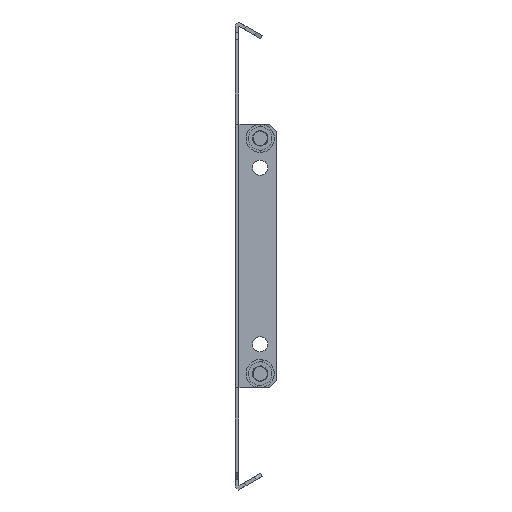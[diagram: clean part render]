
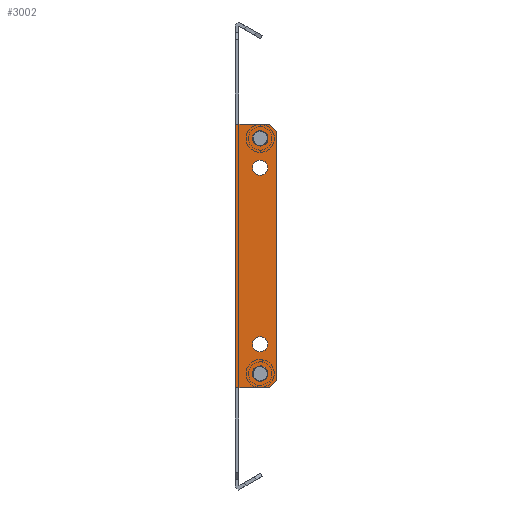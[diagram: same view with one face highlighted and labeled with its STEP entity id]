
A CAD part, front view. The second image highlights one B-rep face of the part: STEP entity #3002.
In plain terms, the highlighted planar face has unit normal (0, -1, 0).
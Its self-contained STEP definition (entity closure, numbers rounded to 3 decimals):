
#146 = CARTESIAN_POINT ( 'NONE',  ( 0.515, -352.638, -48.877 ) ) ;
#231 = EDGE_LOOP ( 'NONE', ( #1581, #9122 ) ) ;
#274 = ORIENTED_EDGE ( 'NONE', *, *, #9484, .F. ) ;
#279 = LINE ( 'NONE', #9231, #11025 ) ;
#505 = EDGE_CURVE ( 'NONE', #4087, #9678, #3709, .T. ) ;
#516 = VERTEX_POINT ( 'NONE', #10806 ) ;
#524 = VERTEX_POINT ( 'NONE', #11651 ) ;
#563 = DIRECTION ( 'NONE',  ( 0., 0., 1. ) ) ;
#637 = EDGE_LOOP ( 'NONE', ( #6946, #12314 ) ) ;
#687 = CARTESIAN_POINT ( 'NONE',  ( 4.515, -352.638, 57.123 ) ) ;
#842 = DIRECTION ( 'NONE',  ( 0., -1., 0. ) ) ;
#848 = DIRECTION ( 'NONE',  ( 0., -1., 0. ) ) ;
#862 = AXIS2_PLACEMENT_3D ( 'NONE', #3015, #1850, #888 ) ;
#888 = DIRECTION ( 'NONE',  ( -1., 0., 0. ) ) ;
#1059 = VERTEX_POINT ( 'NONE', #9406 ) ;
#1076 = CIRCLE ( 'NONE', #3737, 3.25 ) ;
#1083 = FACE_BOUND ( 'NONE', #1373, .T. ) ;
#1204 = FACE_OUTER_BOUND ( 'NONE', #11231, .T. ) ;
#1270 = EDGE_CURVE ( 'NONE', #5194, #7331, #4762, .T. ) ;
#1373 = EDGE_LOOP ( 'NONE', ( #8207, #5707 ) ) ;
#1402 = VERTEX_POINT ( 'NONE', #4898 ) ;
#1581 = ORIENTED_EDGE ( 'NONE', *, *, #8838, .F. ) ;
#1728 = VECTOR ( 'NONE', #12094, 1000. ) ;
#1756 = VERTEX_POINT ( 'NONE', #687 ) ;
#1783 = VECTOR ( 'NONE', #11077, 1000. ) ;
#1850 = DIRECTION ( 'NONE',  ( 0., -1., 0. ) ) ;
#2114 = CARTESIAN_POINT ( 'NONE',  ( 7.515, -352.638, 54.123 ) ) ;
#2748 = CARTESIAN_POINT ( 'NONE',  ( 7.515, -352.638, -51.877 ) ) ;
#2778 = CARTESIAN_POINT ( 'NONE',  ( 0.515, -352.638, -36.377 ) ) ;
#2806 = ORIENTED_EDGE ( 'NONE', *, *, #3421, .T. ) ;
#2843 = DIRECTION ( 'NONE',  ( -1., 0., 0. ) ) ;
#2860 = VERTEX_POINT ( 'NONE', #5591 ) ;
#2981 = CARTESIAN_POINT ( 'NONE',  ( 7.515, -352.638, -51.877 ) ) ;
#3002 = ADVANCED_FACE ( 'NONE', ( #3014, #1083, #12746, #3909, #1204 ), #5921, .F. ) ;
#3014 = FACE_BOUND ( 'NONE', #231, .T. ) ;
#3015 = CARTESIAN_POINT ( 'NONE',  ( 0.515, -352.638, -36.377 ) ) ;
#3421 = EDGE_CURVE ( 'NONE', #4158, #4239, #279, .T. ) ;
#3441 = LINE ( 'NONE', #5569, #7242 ) ;
#3456 = LINE ( 'NONE', #8426, #7062 ) ;
#3709 = CIRCLE ( 'NONE', #4327, 3.25 ) ;
#3737 = AXIS2_PLACEMENT_3D ( 'NONE', #10054, #848, #2843 ) ;
#3795 = EDGE_CURVE ( 'NONE', #524, #5194, #3937, .T. ) ;
#3799 = DIRECTION ( 'NONE',  ( 0., -1., 0. ) ) ;
#3837 = VERTEX_POINT ( 'NONE', #9162 ) ;
#3844 = ORIENTED_EDGE ( 'NONE', *, *, #4509, .T. ) ;
#3856 = CARTESIAN_POINT ( 'NONE',  ( 0.515, -352.638, 38.623 ) ) ;
#3909 = FACE_BOUND ( 'NONE', #5259, .T. ) ;
#3937 = LINE ( 'NONE', #2981, #7722 ) ;
#4031 = DIRECTION ( 'NONE',  ( -1., 0., 0. ) ) ;
#4087 = VERTEX_POINT ( 'NONE', #8044 ) ;
#4158 = VERTEX_POINT ( 'NONE', #7616 ) ;
#4239 = VERTEX_POINT ( 'NONE', #8576 ) ;
#4327 = AXIS2_PLACEMENT_3D ( 'NONE', #5844, #11711, #4031 ) ;
#4352 = ORIENTED_EDGE ( 'NONE', *, *, #5017, .T. ) ;
#4509 = EDGE_CURVE ( 'NONE', #6217, #524, #9081, .T. ) ;
#4559 = CARTESIAN_POINT ( 'NONE',  ( 7.515, -352.638, 1.123 ) ) ;
#4641 = DIRECTION ( 'NONE',  ( 0., -1., 0. ) ) ;
#4762 = LINE ( 'NONE', #4559, #11339 ) ;
#4798 = AXIS2_PLACEMENT_3D ( 'NONE', #9739, #3799, #10696 ) ;
#4898 = CARTESIAN_POINT ( 'NONE',  ( -2.735, -352.638, 38.623 ) ) ;
#5011 = DIRECTION ( 'NONE',  ( 0., 1., 0. ) ) ;
#5017 = EDGE_CURVE ( 'NONE', #1059, #4158, #3441, .T. ) ;
#5058 = DIRECTION ( 'NONE',  ( 0., 0., -1. ) ) ;
#5158 = EDGE_CURVE ( 'NONE', #6217, #4239, #11660, .T. ) ;
#5180 = DIRECTION ( 'NONE',  ( 0., -1., 0. ) ) ;
#5194 = VERTEX_POINT ( 'NONE', #2748 ) ;
#5220 = CIRCLE ( 'NONE', #10573, 3.25 ) ;
#5259 = EDGE_LOOP ( 'NONE', ( #274, #9896 ) ) ;
#5304 = DIRECTION ( 'NONE',  ( -1., 0., 0. ) ) ;
#5445 = DIRECTION ( 'NONE',  ( -1., 0., 0. ) ) ;
#5569 = CARTESIAN_POINT ( 'NONE',  ( -7.485, -352.638, 57.123 ) ) ;
#5591 = CARTESIAN_POINT ( 'NONE',  ( 3.765, -352.638, 38.623 ) ) ;
#5707 = ORIENTED_EDGE ( 'NONE', *, *, #6808, .F. ) ;
#5844 = CARTESIAN_POINT ( 'NONE',  ( 0.515, -352.638, -48.877 ) ) ;
#5854 = ORIENTED_EDGE ( 'NONE', *, *, #5158, .F. ) ;
#5879 = EDGE_CURVE ( 'NONE', #1402, #2860, #1076, .T. ) ;
#5921 = PLANE ( 'NONE',  #10497 ) ;
#5996 = DIRECTION ( 'NONE',  ( -1., 0., 0. ) ) ;
#6026 = EDGE_CURVE ( 'NONE', #1756, #1059, #3456, .T. ) ;
#6180 = CIRCLE ( 'NONE', #8649, 3.25 ) ;
#6194 = ORIENTED_EDGE ( 'NONE', *, *, #6026, .T. ) ;
#6217 = VERTEX_POINT ( 'NONE', #6693 ) ;
#6314 = DIRECTION ( 'NONE',  ( -1., 0., 0. ) ) ;
#6636 = DIRECTION ( 'NONE',  ( 0., -1., 0. ) ) ;
#6693 = CARTESIAN_POINT ( 'NONE',  ( -7.485, -352.638, -54.877 ) ) ;
#6766 = ORIENTED_EDGE ( 'NONE', *, *, #10176, .T. ) ;
#6808 = EDGE_CURVE ( 'NONE', #2860, #1402, #11978, .T. ) ;
#6826 = CARTESIAN_POINT ( 'NONE',  ( -9.985, -352.638, -54.877 ) ) ;
#6862 = DIRECTION ( 'NONE',  ( 0.707, 0., 0.707 ) ) ;
#6946 = ORIENTED_EDGE ( 'NONE', *, *, #11696, .F. ) ;
#6962 = CARTESIAN_POINT ( 'NONE',  ( -9.985, -352.638, 1.123 ) ) ;
#6975 = CARTESIAN_POINT ( 'NONE',  ( 3.765, -352.638, -36.377 ) ) ;
#7062 = VECTOR ( 'NONE', #6314, 1000. ) ;
#7242 = VECTOR ( 'NONE', #5445, 1000. ) ;
#7296 = EDGE_CURVE ( 'NONE', #12129, #516, #10951, .T. ) ;
#7331 = VERTEX_POINT ( 'NONE', #2114 ) ;
#7613 = VERTEX_POINT ( 'NONE', #7646 ) ;
#7616 = CARTESIAN_POINT ( 'NONE',  ( -9.985, -352.638, 57.123 ) ) ;
#7646 = CARTESIAN_POINT ( 'NONE',  ( 3.765, -352.638, 51.123 ) ) ;
#7647 = VECTOR ( 'NONE', #12616, 1000. ) ;
#7722 = VECTOR ( 'NONE', #6862, 1000. ) ;
#7757 = CIRCLE ( 'NONE', #9815, 3.25 ) ;
#7798 = DIRECTION ( 'NONE',  ( 1., 0., 0. ) ) ;
#8044 = CARTESIAN_POINT ( 'NONE',  ( 3.765, -352.638, -48.877 ) ) ;
#8078 = EDGE_CURVE ( 'NONE', #7613, #3837, #8710, .T. ) ;
#8207 = ORIENTED_EDGE ( 'NONE', *, *, #5879, .F. ) ;
#8257 = CARTESIAN_POINT ( 'NONE',  ( -2.735, -352.638, -48.877 ) ) ;
#8426 = CARTESIAN_POINT ( 'NONE',  ( -9.985, -352.638, 57.123 ) ) ;
#8509 = ORIENTED_EDGE ( 'NONE', *, *, #1270, .T. ) ;
#8576 = CARTESIAN_POINT ( 'NONE',  ( -9.985, -352.638, -54.877 ) ) ;
#8649 = AXIS2_PLACEMENT_3D ( 'NONE', #2778, #842, #5996 ) ;
#8710 = CIRCLE ( 'NONE', #4798, 3.25 ) ;
#8838 = EDGE_CURVE ( 'NONE', #3837, #7613, #5220, .T. ) ;
#9081 = LINE ( 'NONE', #11203, #1783 ) ;
#9122 = ORIENTED_EDGE ( 'NONE', *, *, #8078, .F. ) ;
#9162 = CARTESIAN_POINT ( 'NONE',  ( -2.735, -352.638, 51.123 ) ) ;
#9231 = CARTESIAN_POINT ( 'NONE',  ( -9.985, -352.638, 1.123 ) ) ;
#9406 = CARTESIAN_POINT ( 'NONE',  ( -7.485, -352.638, 57.123 ) ) ;
#9484 = EDGE_CURVE ( 'NONE', #516, #12129, #6180, .T. ) ;
#9678 = VERTEX_POINT ( 'NONE', #8257 ) ;
#9739 = CARTESIAN_POINT ( 'NONE',  ( 0.515, -352.638, 51.123 ) ) ;
#9815 = AXIS2_PLACEMENT_3D ( 'NONE', #146, #5180, #5304 ) ;
#9896 = ORIENTED_EDGE ( 'NONE', *, *, #7296, .F. ) ;
#9963 = LINE ( 'NONE', #11959, #1728 ) ;
#10054 = CARTESIAN_POINT ( 'NONE',  ( 0.515, -352.638, 38.623 ) ) ;
#10176 = EDGE_CURVE ( 'NONE', #7331, #1756, #9963, .T. ) ;
#10384 = DIRECTION ( 'NONE',  ( -1., 0., 0. ) ) ;
#10497 = AXIS2_PLACEMENT_3D ( 'NONE', #6962, #5011, #7798 ) ;
#10573 = AXIS2_PLACEMENT_3D ( 'NONE', #12313, #4641, #10384 ) ;
#10696 = DIRECTION ( 'NONE',  ( -1., 0., 0. ) ) ;
#10806 = CARTESIAN_POINT ( 'NONE',  ( -2.735, -352.638, -36.377 ) ) ;
#10951 = CIRCLE ( 'NONE', #862, 3.25 ) ;
#11025 = VECTOR ( 'NONE', #5058, 1000. ) ;
#11077 = DIRECTION ( 'NONE',  ( 1., 0., 0. ) ) ;
#11203 = CARTESIAN_POINT ( 'NONE',  ( -9.985, -352.638, -54.877 ) ) ;
#11231 = EDGE_LOOP ( 'NONE', ( #8509, #6766, #6194, #4352, #2806, #5854, #3844, #11559 ) ) ;
#11339 = VECTOR ( 'NONE', #563, 1000. ) ;
#11558 = AXIS2_PLACEMENT_3D ( 'NONE', #3856, #6636, #12560 ) ;
#11559 = ORIENTED_EDGE ( 'NONE', *, *, #3795, .T. ) ;
#11651 = CARTESIAN_POINT ( 'NONE',  ( 4.515, -352.638, -54.877 ) ) ;
#11660 = LINE ( 'NONE', #6826, #7647 ) ;
#11696 = EDGE_CURVE ( 'NONE', #9678, #4087, #7757, .T. ) ;
#11711 = DIRECTION ( 'NONE',  ( 0., -1., 0. ) ) ;
#11959 = CARTESIAN_POINT ( 'NONE',  ( 4.515, -352.638, 57.123 ) ) ;
#11978 = CIRCLE ( 'NONE', #11558, 3.25 ) ;
#12094 = DIRECTION ( 'NONE',  ( -0.707, 0., 0.707 ) ) ;
#12129 = VERTEX_POINT ( 'NONE', #6975 ) ;
#12313 = CARTESIAN_POINT ( 'NONE',  ( 0.515, -352.638, 51.123 ) ) ;
#12314 = ORIENTED_EDGE ( 'NONE', *, *, #505, .F. ) ;
#12560 = DIRECTION ( 'NONE',  ( -1., 0., 0. ) ) ;
#12616 = DIRECTION ( 'NONE',  ( -1., 0., 0. ) ) ;
#12746 = FACE_BOUND ( 'NONE', #637, .T. ) ;
